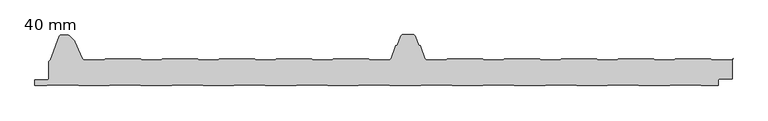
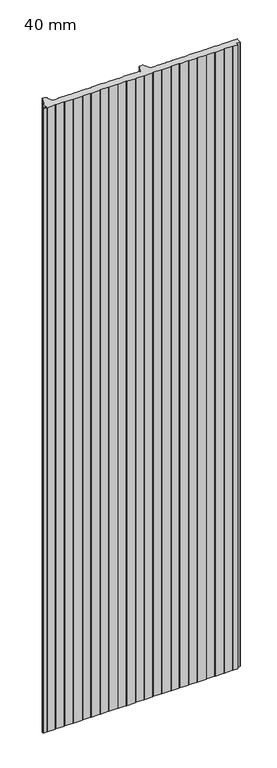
"""IFC4 building model written with IfcOpenShell, lengths in millimetres: plate geometry, HIANSA PANEL - H20.F01.004-PANELES DE CUBIERTA SIN TAPAJUNTA - EASY CUB 3GR - Panel de Muro Cortina : 40 mm."""

from ifc_helpers import new_model, si_unit, point, frame_2d, origin, origin_with_axes, place, context, project, spatial, polyline, circle_curve, trimmed, segment, composite_curve, outline, extrude, source, transform, mapped, element, save


def plate_40_mm_e4d21736(model_context):
    return source(origin(), model_context, "Body", "SweptSolid", [
        extrude(outline(composite_curve([segment(polyline([(-486.0046627, 35.4632456), (-484.137089, 36.894297), (-483.3059854, 37.4234527), (-470.422387, 72.8208483)]), True, "CONTINUOUS"), segment(trimmed(circle_curve(frame_2d((-468.1671247, 72.0)), 2.4), [point((-470.422387, 72.8208483))], [point((-468.1671247, 74.4))], False, "CARTESIAN"), True, "CONTINUOUS"), segment(polyline([(-468.1671247, 74.4), (-458.1823567, 74.4)]), True, "CONTINUOUS"), segment(trimmed(circle_curve(frame_2d((-458.1823567, 70.0)), 4.4), [point((-458.1823567, 74.4))], [point((-455.0710869, 73.1112698))], False, "CARTESIAN"), True, "CONTINUOUS"), segment(polyline([(-455.0710869, 73.1112698), (-448.3843059, 66.4244889)]), True, "CONTINUOUS"), segment(trimmed(circle_curve(frame_2d((-451.4955758, 63.313219)), 4.4), [point((-448.3843059, 66.4244889))], [point((-447.4584377, 65.0629379))], False, "CARTESIAN"), True, "CONTINUOUS"), segment(polyline([(-447.4584377, 65.0629379), (-436.669007, 40.1684119)]), True, "CONTINUOUS"), segment(trimmed(circle_curve(frame_2d((-433.365894, 41.6)), 3.6), [point((-436.669007, 40.1684119))], [point((-433.365894, 38.0))], True, "CARTESIAN"), True, "CONTINUOUS"), segment(polyline([(-433.365894, 38.0), (-405.5009812, 38.0)]), True, "CONTINUOUS"), segment(trimmed(circle_curve(frame_2d((-405.5009812, 40.6)), 2.6), [point((-405.5009812, 38.0))], [point((-403.9019917, 38.5498213))], True, "CARTESIAN"), True, "CONTINUOUS"), segment(polyline([(-403.9019917, 38.5498213), (-403.236987, 39.1783324)]), True, "CONTINUOUS"), segment(trimmed(circle_curve(frame_2d((-402.3441269, 38.1)), 1.4), [point((-403.236987, 39.1783324))], [point((-402.3441269, 39.5))], False, "CARTESIAN"), True, "CONTINUOUS"), segment(polyline([(-402.3441269, 39.5), (-352.3428935, 39.5)]), True, "CONTINUOUS"), segment(trimmed(circle_curve(frame_2d((-352.3428935, 38.1)), 1.4), [point((-352.3428935, 39.5))], [point((-351.4500334, 39.1783324))], False, "CARTESIAN"), True, "CONTINUOUS"), segment(polyline([(-351.4500334, 39.1783324), (-350.7850287, 38.5498213)]), True, "CONTINUOUS"), segment(trimmed(circle_curve(frame_2d((-349.1860393, 40.6)), 2.6), [point((-350.7850287, 38.5498213))], [point((-349.1860393, 38.0))], True, "CARTESIAN"), True, "CONTINUOUS"), segment(polyline([(-349.1860393, 38.0), (-322.1676478, 38.0)]), True, "CONTINUOUS"), segment(trimmed(circle_curve(frame_2d((-322.1676478, 40.6)), 2.6), [point((-322.1676478, 38.0))], [point((-320.5686584, 38.5498213))], True, "CARTESIAN"), True, "CONTINUOUS"), segment(polyline([(-320.5686584, 38.5498213), (-319.9036537, 39.1783324)]), True, "CONTINUOUS"), segment(trimmed(circle_curve(frame_2d((-319.0107936, 38.1)), 1.4), [point((-319.9036537, 39.1783324))], [point((-319.0107936, 39.5))], False, "CARTESIAN"), True, "CONTINUOUS"), segment(polyline([(-319.0107936, 39.5), (-269.0095602, 39.5)]), True, "CONTINUOUS"), segment(trimmed(circle_curve(frame_2d((-269.0095602, 38.1)), 1.4), [point((-269.0095602, 39.5))], [point((-268.1167, 39.1783324))], False, "CARTESIAN"), True, "CONTINUOUS"), segment(polyline([(-268.1167, 39.1783324), (-267.4516953, 38.5498213)]), True, "CONTINUOUS"), segment(trimmed(circle_curve(frame_2d((-265.8527059, 40.6)), 2.6), [point((-267.4516953, 38.5498213))], [point((-265.8527059, 38.0))], True, "CARTESIAN"), True, "CONTINUOUS"), segment(polyline([(-265.8527059, 38.0), (-238.8343145, 38.0)]), True, "CONTINUOUS"), segment(trimmed(circle_curve(frame_2d((-238.8343145, 40.6)), 2.6), [point((-238.8343145, 38.0))], [point((-237.2353251, 38.5498213))], True, "CARTESIAN"), True, "CONTINUOUS"), segment(polyline([(-237.2353251, 38.5498213), (-236.5703204, 39.1783324)]), True, "CONTINUOUS"), segment(trimmed(circle_curve(frame_2d((-235.6774602, 38.1)), 1.4), [point((-236.5703204, 39.1783324))], [point((-235.6774602, 39.5))], False, "CARTESIAN"), True, "CONTINUOUS"), segment(polyline([(-235.6774602, 39.5), (-185.6762268, 39.5)]), True, "CONTINUOUS"), segment(trimmed(circle_curve(frame_2d((-185.6762268, 38.1)), 1.4), [point((-185.6762268, 39.5))], [point((-184.7833667, 39.1783324))], False, "CARTESIAN"), True, "CONTINUOUS"), segment(polyline([(-184.7833667, 39.1783324), (-184.118362, 38.5498213)]), True, "CONTINUOUS"), segment(trimmed(circle_curve(frame_2d((-182.5193726, 40.6)), 2.6), [point((-184.118362, 38.5498213))], [point((-182.5193726, 38.0))], True, "CARTESIAN"), True, "CONTINUOUS"), segment(polyline([(-182.5193726, 38.0), (-155.5009812, 38.0)]), True, "CONTINUOUS"), segment(trimmed(circle_curve(frame_2d((-155.5009812, 40.6)), 2.6), [point((-155.5009812, 38.0))], [point((-153.9019917, 38.5498213))], True, "CARTESIAN"), True, "CONTINUOUS"), segment(polyline([(-153.9019917, 38.5498213), (-153.236987, 39.1783324)]), True, "CONTINUOUS"), segment(trimmed(circle_curve(frame_2d((-152.3441269, 38.1)), 1.4), [point((-153.236987, 39.1783324))], [point((-152.3441269, 39.5))], False, "CARTESIAN"), True, "CONTINUOUS"), segment(polyline([(-152.3441269, 39.5), (-102.3428935, 39.5)]), True, "CONTINUOUS"), segment(trimmed(circle_curve(frame_2d((-102.3428935, 38.1)), 1.4), [point((-102.3428935, 39.5))], [point((-101.4500334, 39.1783324))], False, "CARTESIAN"), True, "CONTINUOUS"), segment(polyline([(-101.4500334, 39.1783324), (-100.7850287, 38.5498213)]), True, "CONTINUOUS"), segment(trimmed(circle_curve(frame_2d((-99.1860393, 40.6)), 2.6), [point((-100.7850287, 38.5498213))], [point((-99.1860393, 38.0))], True, "CARTESIAN"), True, "CONTINUOUS"), segment(polyline([(-99.1860393, 38.0), (-72.1676478, 38.0)]), True, "CONTINUOUS"), segment(trimmed(circle_curve(frame_2d((-72.1676478, 40.6)), 2.6), [point((-72.1676478, 38.0))], [point((-70.5686584, 38.5498213))], True, "CARTESIAN"), True, "CONTINUOUS"), segment(polyline([(-70.5686584, 38.5498213), (-69.9036537, 39.1783324)]), True, "CONTINUOUS"), segment(trimmed(circle_curve(frame_2d((-69.0107936, 38.1)), 1.4), [point((-69.9036537, 39.1783324))], [point((-69.0107936, 39.5))], False, "CARTESIAN"), True, "CONTINUOUS"), segment(polyline([(-69.0107936, 39.5), (-19.0095602, 39.5)]), True, "CONTINUOUS"), segment(trimmed(circle_curve(frame_2d((-19.0095602, 38.1)), 1.4), [point((-19.0095602, 39.5))], [point((-18.1167, 39.1783324))], False, "CARTESIAN"), True, "CONTINUOUS"), segment(polyline([(-18.1167, 39.1783324), (-17.4516953, 38.5498213)]), True, "CONTINUOUS"), segment(trimmed(circle_curve(frame_2d((-15.8527059, 40.6)), 2.6), [point((-17.4516953, 38.5498213))], [point((-15.8527059, 38.0))], True, "CARTESIAN"), True, "CONTINUOUS"), segment(polyline([(-15.8527059, 38.0), (11.1656852, 38.0)]), True, "CONTINUOUS"), segment(trimmed(circle_curve(frame_2d((11.1656852, 41.6)), 3.6), [point((11.1656852, 38.0))], [point((14.5485786, 40.3687274))], True, "CARTESIAN"), True, "CONTINUOUS"), segment(polyline([(14.5485786, 40.3687274), (21.2668073, 58.8269071)]), True, "CONTINUOUS"), segment(trimmed(circle_curve(frame_2d((22.2064999, 58.4848869)), 1.0), [point((21.2668073, 58.8269071))], [point((21.8644798, 59.4245795))], False, "CARTESIAN"), True, "CONTINUOUS"), segment(polyline([(21.8644798, 59.4245795), (23.7105436, 60.0964918)]), True, "CONTINUOUS"), segment(trimmed(circle_curve(frame_2d((23.1633114, 61.6)), 1.6), [point((23.7105436, 60.0964918))], [point((24.6668196, 61.0527678))], True, "CARTESIAN"), True, "CONTINUOUS"), segment(polyline([(24.6668196, 61.0527678), (29.0247417, 73.0260604)]), True, "CONTINUOUS"), segment(trimmed(circle_curve(frame_2d((31.8438196, 72.0)), 3.0), [point((29.0247417, 73.0260604))], [point((31.8438196, 75.0))], False, "CARTESIAN"), True, "CONTINUOUS"), segment(polyline([(31.8438196, 75.0), (46.8024933, 75.0)]), True, "CONTINUOUS"), segment(trimmed(circle_curve(frame_2d((46.8024933, 72.0)), 3.0), [point((46.8024933, 75.0))], [point((49.6215712, 73.0260604))], False, "CARTESIAN"), True, "CONTINUOUS"), segment(polyline([(49.6215712, 73.0260604), (53.9794933, 61.0527678)]), True, "CONTINUOUS"), segment(trimmed(circle_curve(frame_2d((55.4830015, 61.6)), 1.6), [point((53.9794933, 61.0527678))], [point((54.9357693, 60.0964918))], True, "CARTESIAN"), True, "CONTINUOUS"), segment(polyline([(54.9357693, 60.0964918), (56.7818331, 59.4245795)]), True, "CONTINUOUS"), segment(trimmed(circle_curve(frame_2d((56.439813, 58.4848869)), 1.0), [point((56.7818331, 59.4245795))], [point((57.3795056, 58.8269071))], False, "CARTESIAN"), True, "CONTINUOUS"), segment(polyline([(57.3795056, 58.8269071), (64.0977344, 40.3687274)]), True, "CONTINUOUS"), segment(trimmed(circle_curve(frame_2d((67.4806278, 41.6)), 3.6), [point((64.0977344, 40.3687274))], [point((67.4806278, 38.0))], True, "CARTESIAN"), True, "CONTINUOUS"), segment(polyline([(67.4806278, 38.0), (94.4990188, 38.0)]), True, "CONTINUOUS"), segment(trimmed(circle_curve(frame_2d((94.4990188, 40.6)), 2.6), [point((94.4990188, 38.0))], [point((96.0980083, 38.5498213))], True, "CARTESIAN"), True, "CONTINUOUS"), segment(polyline([(96.0980083, 38.5498213), (96.763013, 39.1783324)]), True, "CONTINUOUS"), segment(trimmed(circle_curve(frame_2d((97.6558731, 38.1)), 1.4), [point((96.763013, 39.1783324))], [point((97.6558731, 39.5))], False, "CARTESIAN"), True, "CONTINUOUS"), segment(polyline([(97.6558731, 39.5), (147.6571065, 39.5)]), True, "CONTINUOUS"), segment(trimmed(circle_curve(frame_2d((147.6571065, 38.1)), 1.4), [point((147.6571065, 39.5))], [point((148.5499666, 39.1783324))], False, "CARTESIAN"), True, "CONTINUOUS"), segment(polyline([(148.5499666, 39.1783324), (149.2149713, 38.5498213)]), True, "CONTINUOUS"), segment(trimmed(circle_curve(frame_2d((150.8139607, 40.6)), 2.6), [point((149.2149713, 38.5498213))], [point((150.8139607, 38.0))], True, "CARTESIAN"), True, "CONTINUOUS"), segment(polyline([(150.8139607, 38.0), (177.8323522, 38.0)]), True, "CONTINUOUS"), segment(trimmed(circle_curve(frame_2d((177.8323522, 40.6)), 2.6), [point((177.8323522, 38.0))], [point((179.4313416, 38.5498213))], True, "CARTESIAN"), True, "CONTINUOUS"), segment(polyline([(179.4313416, 38.5498213), (180.0963463, 39.1783324)]), True, "CONTINUOUS"), segment(trimmed(circle_curve(frame_2d((180.9892064, 38.1)), 1.4), [point((180.0963463, 39.1783324))], [point((180.9892064, 39.5))], False, "CARTESIAN"), True, "CONTINUOUS"), segment(polyline([(180.9892064, 39.5), (230.9904398, 39.5)]), True, "CONTINUOUS"), segment(trimmed(circle_curve(frame_2d((230.9904398, 38.1)), 1.4), [point((230.9904398, 39.5))], [point((231.8833, 39.1783324))], False, "CARTESIAN"), True, "CONTINUOUS"), segment(polyline([(231.8833, 39.1783324), (232.5483047, 38.5498213)]), True, "CONTINUOUS"), segment(trimmed(circle_curve(frame_2d((234.1472941, 40.6)), 2.6), [point((232.5483047, 38.5498213))], [point((234.1472941, 38.0))], True, "CARTESIAN"), True, "CONTINUOUS"), segment(polyline([(234.1472941, 38.0), (261.1656855, 38.0)]), True, "CONTINUOUS"), segment(trimmed(circle_curve(frame_2d((261.1656855, 40.6)), 2.6), [point((261.1656855, 38.0))], [point((262.7646749, 38.5498213))], True, "CARTESIAN"), True, "CONTINUOUS"), segment(polyline([(262.7646749, 38.5498213), (263.4296796, 39.1783324)]), True, "CONTINUOUS"), segment(trimmed(circle_curve(frame_2d((264.3225398, 38.1)), 1.4), [point((263.4296796, 39.1783324))], [point((264.3225398, 39.5))], False, "CARTESIAN"), True, "CONTINUOUS"), segment(polyline([(264.3225398, 39.5), (314.3237732, 39.5)]), True, "CONTINUOUS"), segment(trimmed(circle_curve(frame_2d((314.3237732, 38.1)), 1.4), [point((314.3237732, 39.5))], [point((315.2166333, 39.1783324))], False, "CARTESIAN"), True, "CONTINUOUS"), segment(polyline([(315.2166333, 39.1783324), (315.881638, 38.5498213)]), True, "CONTINUOUS"), segment(trimmed(circle_curve(frame_2d((317.4806274, 40.6)), 2.6), [point((315.881638, 38.5498213))], [point((317.4806274, 38.0))], True, "CARTESIAN"), True, "CONTINUOUS"), segment(polyline([(317.4806274, 38.0), (344.4990188, 38.0)]), True, "CONTINUOUS"), segment(trimmed(circle_curve(frame_2d((344.4990188, 40.6)), 2.6), [point((344.4990188, 38.0))], [point((346.0980083, 38.5498213))], True, "CARTESIAN"), True, "CONTINUOUS"), segment(polyline([(346.0980083, 38.5498213), (346.763013, 39.1783324)]), True, "CONTINUOUS"), segment(trimmed(circle_curve(frame_2d((347.6558731, 38.1)), 1.4), [point((346.763013, 39.1783324))], [point((347.6558731, 39.5))], False, "CARTESIAN"), True, "CONTINUOUS"), segment(polyline([(347.6558731, 39.5), (397.6571065, 39.5)]), True, "CONTINUOUS"), segment(trimmed(circle_curve(frame_2d((397.6571065, 38.1)), 1.4), [point((397.6571065, 39.5))], [point((398.5499666, 39.1783324))], False, "CARTESIAN"), True, "CONTINUOUS"), segment(polyline([(398.5499666, 39.1783324), (399.2149713, 38.5498213)]), True, "CONTINUOUS"), segment(trimmed(circle_curve(frame_2d((400.8139607, 40.6)), 2.6), [point((399.2149713, 38.5498213))], [point((400.8139607, 38.0))], True, "CARTESIAN"), True, "CONTINUOUS"), segment(polyline([(400.8139607, 38.0), (427.8323522, 38.0)]), True, "CONTINUOUS"), segment(trimmed(circle_curve(frame_2d((427.8323522, 40.6)), 2.6), [point((427.8323522, 38.0))], [point((429.4313416, 38.5498213))], True, "CARTESIAN"), True, "CONTINUOUS"), segment(polyline([(429.4313416, 38.5498213), (430.0963463, 39.1783324)]), True, "CONTINUOUS"), segment(trimmed(circle_curve(frame_2d((430.9892064, 38.1)), 1.4), [point((430.0963463, 39.1783324))], [point((430.9892064, 39.5))], False, "CARTESIAN"), True, "CONTINUOUS"), segment(polyline([(430.9892064, 39.5), (480.9904398, 39.5)]), True, "CONTINUOUS"), segment(trimmed(circle_curve(frame_2d((480.9904398, 38.1)), 1.4), [point((480.9904398, 39.5))], [point((481.8833, 39.1783324))], False, "CARTESIAN"), True, "CONTINUOUS"), segment(polyline([(481.8833, 39.1783324), (482.5483047, 38.5498213)]), True, "CONTINUOUS"), segment(trimmed(circle_curve(frame_2d((484.1472941, 40.6)), 2.6), [point((482.5483047, 38.5498213))], [point((484.1472941, 38.0))], True, "CARTESIAN"), True, "CONTINUOUS"), segment(polyline([(484.1472941, 38.0), (511.1656852, 38.0)]), True, "CONTINUOUS"), segment(trimmed(circle_curve(frame_2d((511.1656852, 41.6)), 3.6), [point((511.1656852, 38.0))], [point((514.4544488, 40.1357481))], True, "CARTESIAN"), True, "CONTINUOUS"), segment(polyline([(514.4544488, 40.1357481), (513.0032453, 36.8762916), (512.9998866, 10.6270689)]), True, "CONTINUOUS"), segment(trimmed(circle_curve(frame_2d((512.4998866, 10.6270942)), 0.5), [point((512.9998866, 10.6270689))], [point((512.4968315, 10.1271035))], False, "CARTESIAN"), True, "CONTINUOUS"), segment(polyline([(512.4968315, 10.1271035), (493.9998866, 10.1271035)]), True, "CONTINUOUS"), segment(trimmed(circle_curve(frame_2d((493.9998866, 9.1271035)), 1.0), [point((493.9998866, 10.1271035))], [point((492.9998866, 9.1271035))], True, "CARTESIAN"), True, "CONTINUOUS"), segment(polyline([(492.9998866, 9.1271035), (492.9998866, 0.9999588)]), True, "CONTINUOUS"), segment(trimmed(circle_curve(frame_2d((492.4998866, 0.9999588)), 0.5), [point((492.9998866, 0.9999588))], [point((492.4998866, 0.4999588))], False, "CARTESIAN"), True, "CONTINUOUS"), segment(polyline([(492.4998866, 0.4999588), (467.8211387, 0.4999588), (464.8211387, 1.4999588), (424.658861, 1.4999588), (421.658861, 0.4999588), (376.8211387, 0.4999588), (373.8211387, 1.4999588), (333.658861, 1.4999588), (330.658861, 0.4999588), (285.8211387, 0.4999588), (282.8211387, 1.4999588), (242.658861, 1.4999588), (239.658861, 0.4999588), (194.8211387, 0.4999588), (191.8211387, 1.4999588), (151.658861, 1.4999588), (148.658861, 0.4999588), (103.8211387, 0.4999588), (100.8211387, 1.4999588), (60.658861, 1.4999588), (57.658861, 0.4999588), (12.8211387, 0.4999588), (9.8211387, 1.4999588), (-30.341139, 1.4999588), (-33.341139, 0.4999588), (-78.1788613, 0.4999588), (-81.1788613, 1.4999588), (-121.341139, 1.4999588), (-124.341139, 0.4999588), (-169.1788613, 0.4999588), (-172.1788613, 1.4999588), (-212.341139, 1.4999588), (-215.341139, 0.4999588), (-260.1788613, 0.4999588), (-263.1788613, 1.4999588), (-303.341139, 1.4999588), (-306.341139, 0.4999588), (-351.1788613, 0.4999588), (-354.1788613, 1.4999588), (-394.341139, 1.4999588), (-397.341139, 0.4999588), (-442.1788613, 0.4999588), (-445.1789848, 1.5), (-485.341139, 1.5), (-488.3412625, 0.4999588), (-505.5000516, 0.4999588)]), True, "CONTINUOUS"), segment(trimmed(circle_curve(frame_2d((-505.5000516, 1.0000206)), 0.5000618), [point((-505.5000516, 0.4999588))], [point((-506.0001134, 1.0000206))], False, "CARTESIAN"), True, "CONTINUOUS"), segment(polyline([(-506.0001134, 1.0000206), (-506.0001134, 8.2649415)]), True, "CONTINUOUS"), segment(trimmed(circle_curve(frame_2d((-505.4998556, 8.2649415)), 0.5002578), [point((-506.0001134, 8.2649415))], [point((-505.4968734, 8.7651905))], False, "CARTESIAN"), True, "CONTINUOUS"), segment(polyline([(-505.4968734, 8.7651905), (-487.0014074, 8.7651905)]), True, "CONTINUOUS"), segment(trimmed(circle_curve(frame_2d((-487.0014074, 9.7640482)), 0.9988578), [point((-487.0014074, 8.7651905))], [point((-486.0046627, 9.8289851))], True, "CARTESIAN"), True, "CONTINUOUS"), segment(polyline([(-486.0046627, 9.8289851), (-486.0046627, 35.4632456)]), True, "CONTINUOUS")], self_intersect=False)), origin_with_axes(), (0.0, 0.0, 1.0), 3390.8509027),
    ])


if __name__ == "__main__":
    model = new_model("IFC4")
    model_context = context("Model", 3, world=origin())
    ifc_project = project(units=[si_unit("LENGTHUNIT", "METRE", prefix="MILLI")], contexts=[model_context])
    site = spatial("IfcSite", under=ifc_project)
    building = spatial("IfcBuilding", under=site)
    placement = place(None, origin())
    plate_40_mm_shape = plate_40_mm_e4d21736(model_context)
    element("IfcPlate", 1, ObjectType="HIANSA PANEL - H20.F01.004-PANELES DE CUBIERTA SIN TAPAJUNTA - EASY CUB 3GR - Panel de Muro Cortina : 40 mm", at=placement, inside=building, context=model_context, shape_type="MappedRepresentation", body=[
        mapped(plate_40_mm_shape, transform((0.0, 0.0, 0.0), x_axis=(1.0, 0.0, 0.0), y_axis=(0.0, 1.0, 0.0), z_axis=(0.0, 0.0, 1.0))),
    ])
    save(model, "model.ifc")
